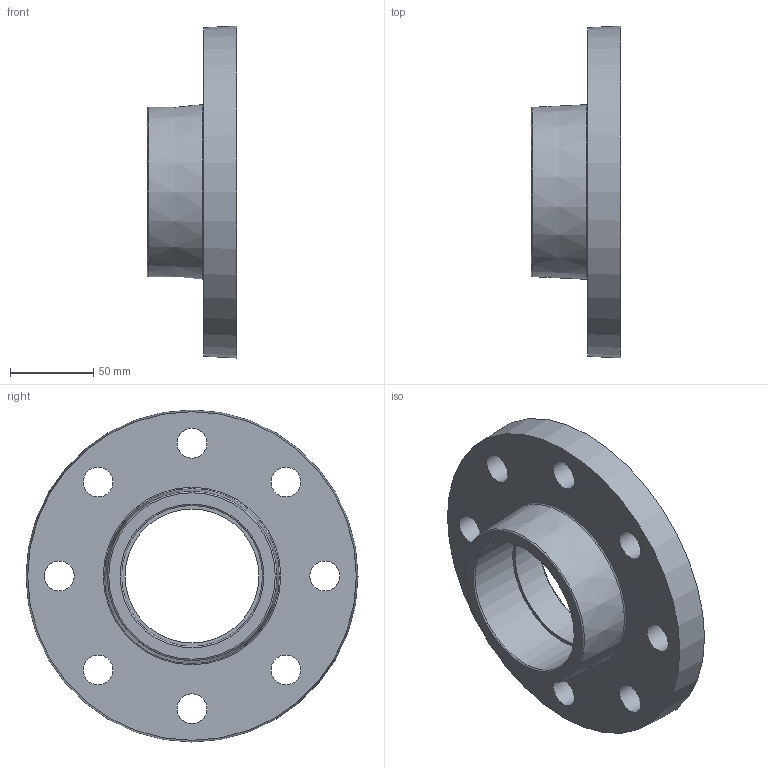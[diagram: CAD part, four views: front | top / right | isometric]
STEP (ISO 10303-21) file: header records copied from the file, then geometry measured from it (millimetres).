
FILE_DESCRIPTION(/* description */ ('PLASSON THR. FIXED FLANGE PVC 3"'),/* implementation_level */ '2;1');
FILE_NAME(/* name */ 'C:\Dropbox\KIMPROJECTS-Inventor\99-16-3568-Processing\PVC Catalog 2017\059201\059201030.ipt.stp',/* time_stamp */ '2017-12-07T16:07:33+02:00',/* author */ ('KIM'),/* organization */ (''),/* preprocessor_version */ 'ST-DEVELOPER v15.6',/* originating_system */ 'Autodesk Inventor 2015',/* authorisation */ '');
FILE_SCHEMA (('AUTOMOTIVE_DESIGN { 1 0 10303 214 3 1 1 }'));
Length unit declared in the file: millimetre
Products named in the file (1): 059201030
Bounding box: 54 x 200 x 200 mm (x, y, z)
Volume: 573329.4 mm3; surface area: 94406.2 mm2
Topology: 1 solids, 1 shells, 32 faces, 62 edges, 40 vertices
Faces by surface type: cylinder 16, plane 10, torus 4, cone 2
Full cylindrical faces by diameter (mm): 18 x8, 80.68 x1, 84.378 x1, 84.926 x1, 86.378 x1, 88.378 x1, 90.378 x1, 92.378 x1, 94.378 x1
Entity records: 784 total; most frequent: DIRECTION 146, CARTESIAN_POINT 113, EDGE_LOOP 80, ORIENTED_EDGE 80, AXIS2_PLACEMENT_3D 73, FACE_BOUND 48, CIRCLE 40, VERTEX_POINT 40
